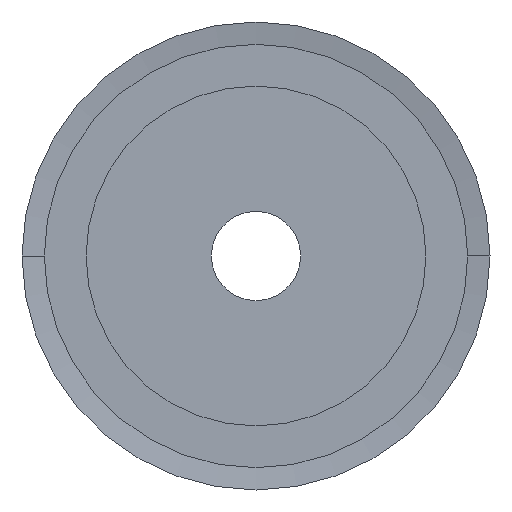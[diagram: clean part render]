
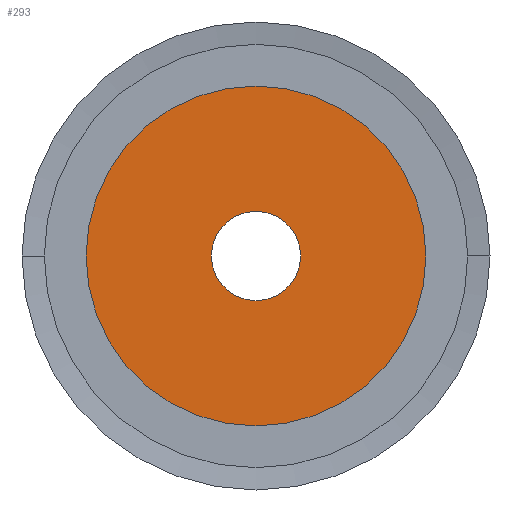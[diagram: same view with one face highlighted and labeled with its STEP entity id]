
A CAD part, left-side view. The second image highlights one B-rep face of the part: STEP entity #293.
In plain terms, the highlighted planar face has unit normal (-1, 0, 0).
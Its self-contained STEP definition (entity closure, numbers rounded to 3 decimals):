
#293 = ADVANCED_FACE( '', ( #737, #738 ), #739, .T. );
#737 = FACE_BOUND( '', #1182, .T. );
#738 = FACE_OUTER_BOUND( '', #1183, .T. );
#739 = PLANE( '', #1184 );
#1182 = EDGE_LOOP( '', ( #3091, #3092 ) );
#1183 = EDGE_LOOP( '', ( #3093, #3094 ) );
#1184 = AXIS2_PLACEMENT_3D( '', #3095, #3096, #3097 );
#3091 = ORIENTED_EDGE( '', *, *, #3137, .T. );
#3092 = ORIENTED_EDGE( '', *, *, #3133, .T. );
#3093 = ORIENTED_EDGE( '', *, *, #3101, .T. );
#3094 = ORIENTED_EDGE( '', *, *, #3725, .T. );
#3095 = CARTESIAN_POINT( '', ( 0., 7.625, 0. ) );
#3096 = DIRECTION( '', ( -1., 0., 0. ) );
#3097 = DIRECTION( '', ( 0., 1., 0. ) );
#3101 = EDGE_CURVE( '', #3727, #3731, #3733, .T. );
#3133 = EDGE_CURVE( '', #3791, #3788, #3792, .T. );
#3137 = EDGE_CURVE( '', #3788, #3791, #3797, .T. );
#3725 = EDGE_CURVE( '', #3731, #3727, #4769, .T. );
#3727 = VERTEX_POINT( '', #4771 );
#3731 = VERTEX_POINT( '', #4776 );
#3733 = CIRCLE( '', #4779, 15.25 );
#3788 = VERTEX_POINT( '', #4850 );
#3791 = VERTEX_POINT( '', #4854 );
#3792 = CIRCLE( '', #4855, 4. );
#3797 = CIRCLE( '', #4861, 4. );
#4769 = CIRCLE( '', #6169, 15.25 );
#4771 = CARTESIAN_POINT( '', ( 0., 15.25, 0. ) );
#4776 = CARTESIAN_POINT( '', ( 0., -15.25, 0. ) );
#4779 = AXIS2_PLACEMENT_3D( '', #6175, #6176, #6177 );
#4850 = CARTESIAN_POINT( '', ( 0., 4., 0. ) );
#4854 = CARTESIAN_POINT( '', ( 0., -4., 0. ) );
#4855 = AXIS2_PLACEMENT_3D( '', #6237, #6238, #6239 );
#4861 = AXIS2_PLACEMENT_3D( '', #6247, #6248, #6249 );
#6169 = AXIS2_PLACEMENT_3D( '', #7339, #7340, #7341 );
#6175 = CARTESIAN_POINT( '', ( 0., 0., 0. ) );
#6176 = DIRECTION( '', ( -1., 0., 0. ) );
#6177 = DIRECTION( '', ( 0., 1., 0. ) );
#6237 = CARTESIAN_POINT( '', ( 0., 0., 0. ) );
#6238 = DIRECTION( '', ( 1., 0., 0. ) );
#6239 = DIRECTION( '', ( 0., 1., 0. ) );
#6247 = CARTESIAN_POINT( '', ( 0., 0., 0. ) );
#6248 = DIRECTION( '', ( 1., 0., 0. ) );
#6249 = DIRECTION( '', ( 0., 1., 0. ) );
#7339 = CARTESIAN_POINT( '', ( 0., 0., 0. ) );
#7340 = DIRECTION( '', ( -1., 0., 0. ) );
#7341 = DIRECTION( '', ( 0., 1., 0. ) );
